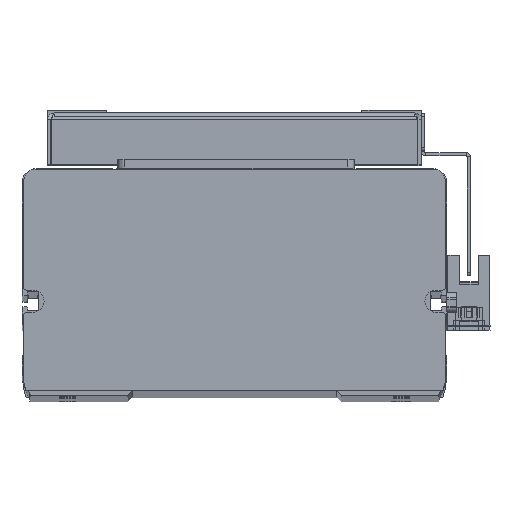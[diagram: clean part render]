
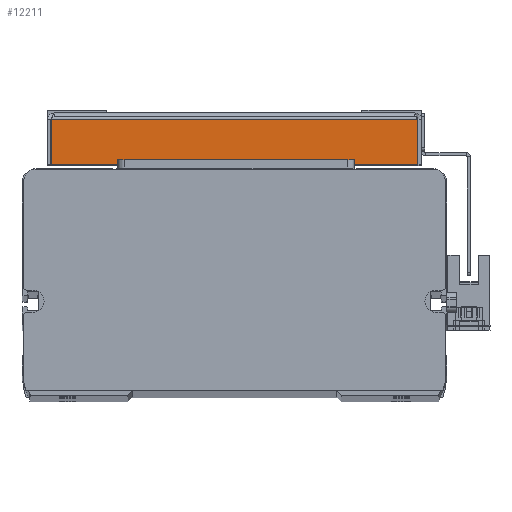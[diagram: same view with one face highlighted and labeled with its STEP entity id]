
A CAD part, top view. The second image highlights one B-rep face of the part: STEP entity #12211.
In plain terms, the highlighted planar face has unit normal (0, 0, 1) as drawn and (0, 1, 0) by its records, which use the part's own axes.
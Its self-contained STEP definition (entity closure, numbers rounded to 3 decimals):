
#73 = LINE ( 'NONE', #339, #9097 ) ;
#339 = CARTESIAN_POINT ( 'NONE',  ( 0., 95., 0. ) ) ;
#685 = VERTEX_POINT ( 'NONE', #8028 ) ;
#849 = VERTEX_POINT ( 'NONE', #1509 ) ;
#866 = EDGE_CURVE ( 'NONE', #849, #11882, #73, .T. ) ;
#1292 = ORIENTED_EDGE ( 'NONE', *, *, #8384, .F. ) ;
#1453 = LINE ( 'NONE', #7497, #4482 ) ;
#1509 = CARTESIAN_POINT ( 'NONE',  ( 58.2, 95., 0. ) ) ;
#1843 = DIRECTION ( 'NONE',  ( 0., 0., 1. ) ) ;
#2474 = CARTESIAN_POINT ( 'NONE',  ( 58.2, 95., 14.3 ) ) ;
#3035 = ORIENTED_EDGE ( 'NONE', *, *, #6528, .T. ) ;
#3292 = EDGE_LOOP ( 'NONE', ( #1292, #3035, #9003, #9762 ) ) ;
#3440 = LINE ( 'NONE', #13149, #7732 ) ;
#3499 = VECTOR ( 'NONE', #11033, 1000. ) ;
#4482 = VECTOR ( 'NONE', #8843, 1000. ) ;
#4645 = FACE_OUTER_BOUND ( 'NONE', #3292, .T. ) ;
#5910 = CARTESIAN_POINT ( 'NONE',  ( 0., 95., 15.3 ) ) ;
#6528 = EDGE_CURVE ( 'NONE', #13816, #849, #1453, .T. ) ;
#6625 = LINE ( 'NONE', #12103, #3499 ) ;
#7495 = CARTESIAN_POINT ( 'NONE',  ( -58.2, 95., 0. ) ) ;
#7497 = CARTESIAN_POINT ( 'NONE',  ( 58.2, 95., 14.3 ) ) ;
#7732 = VECTOR ( 'NONE', #9047, 1000. ) ;
#8028 = CARTESIAN_POINT ( 'NONE',  ( -58.2, 95., 14.3 ) ) ;
#8384 = EDGE_CURVE ( 'NONE', #13816, #685, #3440, .T. ) ;
#8843 = DIRECTION ( 'NONE',  ( 0., 0., -1. ) ) ;
#9003 = ORIENTED_EDGE ( 'NONE', *, *, #866, .T. ) ;
#9047 = DIRECTION ( 'NONE',  ( -1., 0., 0. ) ) ;
#9097 = VECTOR ( 'NONE', #16791, 1000. ) ;
#9762 = ORIENTED_EDGE ( 'NONE', *, *, #12182, .F. ) ;
#10406 = AXIS2_PLACEMENT_3D ( 'NONE', #5910, #14142, #1843 ) ;
#11033 = DIRECTION ( 'NONE',  ( 0., 0., -1. ) ) ;
#11882 = VERTEX_POINT ( 'NONE', #7495 ) ;
#12103 = CARTESIAN_POINT ( 'NONE',  ( -58.2, 95., 14.3 ) ) ;
#12182 = EDGE_CURVE ( 'NONE', #685, #11882, #6625, .T. ) ;
#12211 = ADVANCED_FACE ( 'NONE', ( #4645 ), #15427, .F. ) ;
#13149 = CARTESIAN_POINT ( 'NONE',  ( -59.5, 95., 14.3 ) ) ;
#13816 = VERTEX_POINT ( 'NONE', #2474 ) ;
#14142 = DIRECTION ( 'NONE',  ( 0., -1., 0. ) ) ;
#15427 = PLANE ( 'NONE',  #10406 ) ;
#16791 = DIRECTION ( 'NONE',  ( -1., 0., 0. ) ) ;
